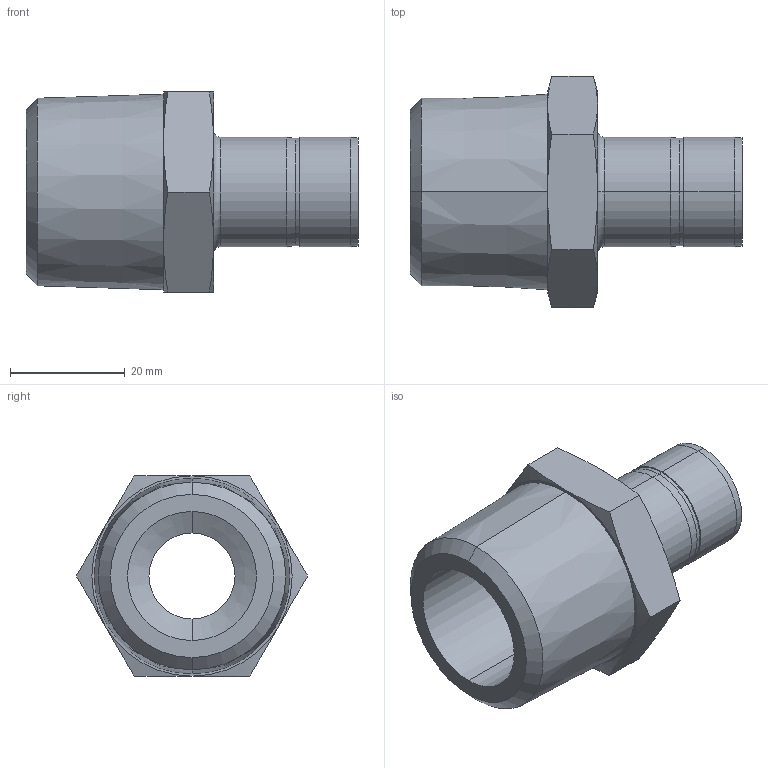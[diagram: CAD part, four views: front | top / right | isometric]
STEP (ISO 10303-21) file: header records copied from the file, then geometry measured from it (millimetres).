
FILE_DESCRIPTION (( 'STEP AP203' ), '1' );
FILE_NAME ('DHA12-16 SS.STEP', '2009-09-08T06:15:15', ( ' ' ), ( '' ), 'SwSTEP 2.0', 'SolidWorks 2008', '' );
FILE_SCHEMA (( 'CONFIG_CONTROL_DESIGN' ));
Length unit declared in the file: millimetre
Products named in the file (1): DHA12-16 SS
Bounding box: 57.9 x 40.33 x 34.93 mm (x, y, z)
Volume: 21156.4 mm3; surface area: 9809.8 mm2
Topology: 1 solids, 1 shells, 46 faces, 96 edges, 54 vertices
Faces by surface type: cone 24, cylinder 10, plane 10, torus 2
Entity records: 1357 total; most frequent: CARTESIAN_POINT 317, DIRECTION 210, ORIENTED_EDGE 192, EDGE_CURVE 96, AXIS2_PLACEMENT_3D 91, VERTEX_POINT 54, EDGE_LOOP 50, ADVANCED_FACE 46
